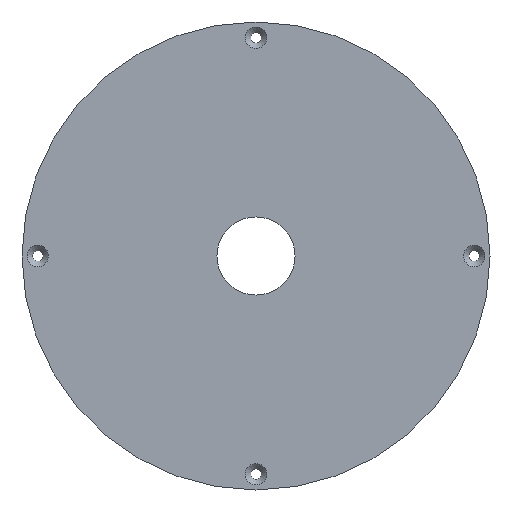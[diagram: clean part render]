
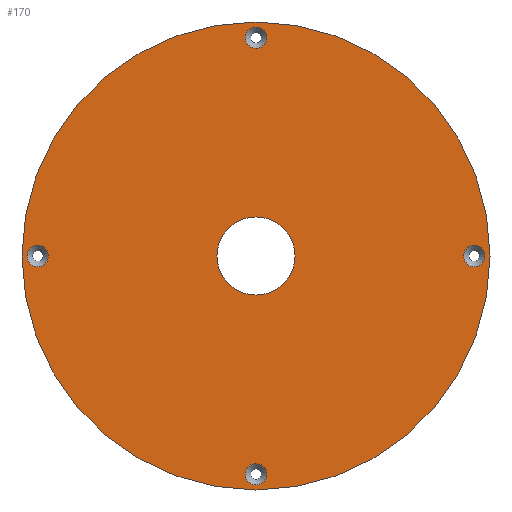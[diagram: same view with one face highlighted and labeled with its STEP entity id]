
A CAD part, front view. The second image highlights one B-rep face of the part: STEP entity #170.
In plain terms, the highlighted planar face has unit normal (0, -1, 0).
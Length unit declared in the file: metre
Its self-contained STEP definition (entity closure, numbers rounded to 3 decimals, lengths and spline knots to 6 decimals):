
#16=PLANE('',#199);
#22=ORIENTED_EDGE('',*,*,#54,.T.);
#23=ORIENTED_EDGE('',*,*,#55,.T.);
#24=ORIENTED_EDGE('',*,*,#56,.T.);
#25=ORIENTED_EDGE('',*,*,#57,.T.);
#26=ORIENTED_EDGE('',*,*,#50,.T.);
#27=ORIENTED_EDGE('',*,*,#52,.F.);
#50=EDGE_CURVE('',#66,#66,#82,.T.);
#52=EDGE_CURVE('',#68,#68,#84,.T.);
#54=EDGE_CURVE('',#70,#70,#86,.F.);
#55=EDGE_CURVE('',#71,#71,#87,.F.);
#56=EDGE_CURVE('',#72,#72,#88,.F.);
#57=EDGE_CURVE('',#73,#73,#89,.F.);
#66=VERTEX_POINT('',#282);
#68=VERTEX_POINT('',#287);
#70=VERTEX_POINT('',#292);
#71=VERTEX_POINT('',#294);
#72=VERTEX_POINT('',#296);
#73=VERTEX_POINT('',#298);
#82=CIRCLE('',#194,0.065837);
#84=CIRCLE('',#197,0.011);
#86=CIRCLE('',#200,0.003);
#87=CIRCLE('',#201,0.003);
#88=CIRCLE('',#202,0.003);
#89=CIRCLE('',#203,0.003);
#102=EDGE_LOOP('',(#22));
#103=EDGE_LOOP('',(#23));
#104=EDGE_LOOP('',(#24));
#105=EDGE_LOOP('',(#25));
#106=EDGE_LOOP('',(#26));
#107=EDGE_LOOP('',(#27));
#134=FACE_BOUND('',#102,.T.);
#135=FACE_BOUND('',#103,.T.);
#136=FACE_BOUND('',#104,.T.);
#137=FACE_BOUND('',#105,.T.);
#138=FACE_BOUND('',#106,.T.);
#139=FACE_BOUND('',#107,.T.);
#170=ADVANCED_FACE('',(#134,#135,#136,#137,#138,#139),#16,.T.);
#194=AXIS2_PLACEMENT_3D('',#281,#225,#226);
#197=AXIS2_PLACEMENT_3D('',#286,#231,#232);
#199=AXIS2_PLACEMENT_3D('',#290,#235,#236);
#200=AXIS2_PLACEMENT_3D('',#291,#237,#238);
#201=AXIS2_PLACEMENT_3D('',#293,#239,#240);
#202=AXIS2_PLACEMENT_3D('',#295,#241,#242);
#203=AXIS2_PLACEMENT_3D('',#297,#243,#244);
#225=DIRECTION('',(0.,-1.,0.));
#226=DIRECTION('',(1.,0.,0.));
#231=DIRECTION('',(0.,-1.,0.));
#232=DIRECTION('',(0.,0.,-1.));
#235=DIRECTION('',(0.,-1.,0.));
#236=DIRECTION('',(1.,0.,0.));
#237=DIRECTION('',(0.,-1.,0.));
#238=DIRECTION('',(0.,0.,-1.));
#239=DIRECTION('',(0.,-1.,0.));
#240=DIRECTION('',(0.,0.,-1.));
#241=DIRECTION('',(0.,-1.,0.));
#242=DIRECTION('',(0.,0.,-1.));
#243=DIRECTION('',(0.,-1.,0.));
#244=DIRECTION('',(0.,0.,-1.));
#281=CARTESIAN_POINT('',(0.,-0.0494,0.));
#282=CARTESIAN_POINT('',(0.065837,-0.0494,0.));
#286=CARTESIAN_POINT('',(0.,-0.0494,0.));
#287=CARTESIAN_POINT('',(0.,-0.0494,-0.011));
#290=CARTESIAN_POINT('',(0.,-0.0494,0.));
#291=CARTESIAN_POINT('',(-0.061392,-0.0494,0.));
#292=CARTESIAN_POINT('',(-0.061392,-0.0494,-0.003));
#293=CARTESIAN_POINT('',(0.,-0.0494,-0.061392));
#294=CARTESIAN_POINT('',(0.,-0.0494,-0.064392));
#295=CARTESIAN_POINT('',(0.061392,-0.0494,0.));
#296=CARTESIAN_POINT('',(0.061392,-0.0494,-0.003));
#297=CARTESIAN_POINT('',(0.,-0.0494,0.061392));
#298=CARTESIAN_POINT('',(0.,-0.0494,0.058392));
